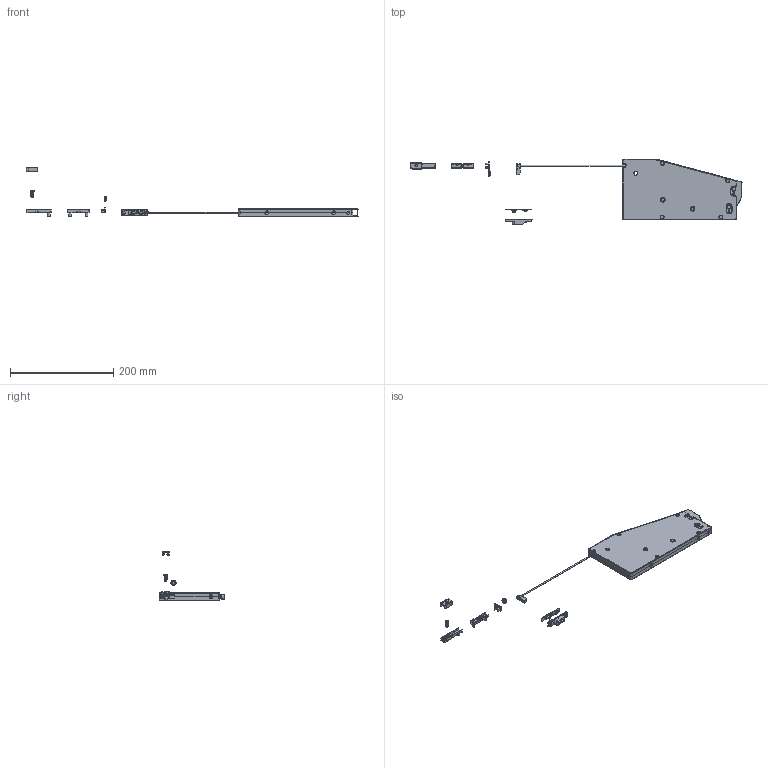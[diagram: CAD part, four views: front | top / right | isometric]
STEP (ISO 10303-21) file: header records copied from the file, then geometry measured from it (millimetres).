
FILE_DESCRIPTION((''),'2;1');
FILE_NAME('46006000_ASM','2022-04-20T11:20:27',('SimoneD'),(''),'CREO PARAMETRIC BY PTC INC, 2020053','CREO PARAMETRIC BY PTC INC, 2020053','');
FILE_SCHEMA(('CONFIG_CONTROL_DESIGN'));
Products named in the file (11): 4600600W; 46302010; 46301220; 46302040; 46301150; 46301130; 46301120; 60503050; 46301140; 23002010; 46006000_ASM
Assembly tree (10 placements, depth 2):
  46006000_ASM
    4600600W
    46302010
    46301220
    46302040
    46301150
    46301130
    46301120
    60503050
    46301140
    23002010
Bounding box: 644.12 x 127.9 x 95.3 mm (x, y, z)
Volume: 337115.1 mm3; surface area: 71713.3 mm2
Topology: 10 solids, 10 shells, 1931 faces, 4785 edges, 2855 vertices
Faces by surface type: cylinder 629, plane 458, bspline 306, torus 300, sphere 100, cone 94, extrusion 44
Entity records: 77985 total; most frequent: CARTESIAN_POINT 34163, ORIENTED_EDGE 9486, DIRECTION 8819, EDGE_CURVE 4743, AXIS2_PLACEMENT_3D 3480, VERTEX_POINT 2855, EDGE_LOOP 1976, FACE_OUTER_BOUND 1931
